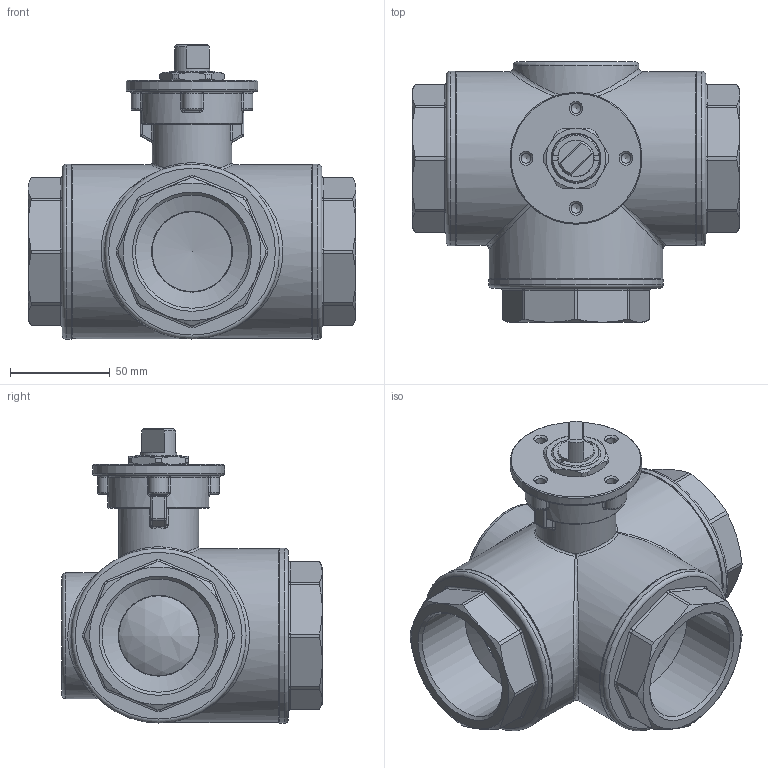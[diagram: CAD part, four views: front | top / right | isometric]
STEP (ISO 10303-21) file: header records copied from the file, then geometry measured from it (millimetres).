
FILE_DESCRIPTION((''),'2;1');
FILE_NAME('C:\Documents and Settings\ut4\Desktop\TICOM 16-07-2012\Art.92 PM SM 002.stp','2012-07-16T14:09:11',('ut4'),(''),'Autodesk Inventor 2013','Autodesk Inventor 2013','');
FILE_SCHEMA(('AUTOMOTIVE_DESIGN { 1 0 10303 214 1 1 1 1 }'));
Length unit declared in the file: millimetre
Products named in the file (13): Art.92 PM SM 002 NEW; Corpo 3vie mot. 002; Manic. 3vie 002; Sfera 3vie for. L 002; Sede mot. 3v 002; O-ring 46.04 x 3; Perno 3 vie mot. 23 q8; Anello antigrip. perno mot. Ø23; Boccola antigrip. perno mot. Ø23; O-ring 17.86 x 2; Ghiera ferma asta mot. 34-25 PER PMS; Disc. portamot. Ø65 speciale TICOM; Dado blocca piastra SM3
Assembly tree (21 placements, depth 2):
  Art.92 PM SM 002 NEW
    Corpo 3vie mot. 002
    Manic. 3vie 002  x3
    Sfera 3vie for. L 002
    Sede mot. 3v 002  x4
    O-ring 46.04 x 3  x4
    Perno 3 vie mot. 23 q8
    Anello antigrip. perno mot. Ø23
    Boccola antigrip. perno mot. Ø23
    O-ring 17.86 x 2  x2
    Ghiera ferma asta mot. 34-25 PER PMS
    Disc. portamot. Ø65 speciale TICOM
    Dado blocca piastra SM3
Bounding box: 164 x 130.6 x 147.3 mm (x, y, z)
Volume: 738438.3 mm3; surface area: 247687.1 mm2
Topology: 21 solids, 21 shells, 658 faces, 1525 edges, 937 vertices
Faces by surface type: plane 231, cylinder 185, cone 90, bspline 72, torus 63, sphere 17
Full cylindrical faces by diameter (mm): 4.917 x4, 18 x2, 18.3 x1, 19.3 x2, 20 x1, 20.2 x1, 21 x2, 21.1 x1, 22.9 x3, 23 x3, 23.5 x1, 24.95 x1, 25 x1, 26 x1, 26.2 x1, 32 x1, 32.5 x1, 34 x1, 40 x7, 40.5 x3, 46 x4, 55 x8, 56.66 x3, 62 x3, 63 x1, 66 x1, 77.5 x3, 79 x3, 79.5 x3, 87 x2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
Entity records: 16658 total; most frequent: CARTESIAN_POINT 4951, ORIENTED_EDGE 2208, DIRECTION 2187, EDGE_CURVE 1104, AXIS2_PLACEMENT_3D 862, VERTEX_POINT 736, EDGE_LOOP 664, FACE_OUTER_BOUND 515
